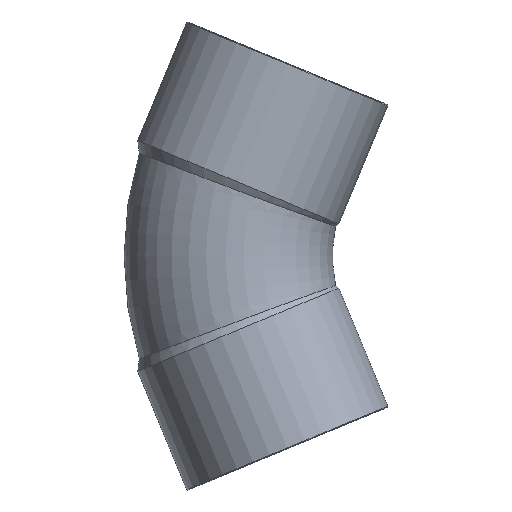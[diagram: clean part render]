
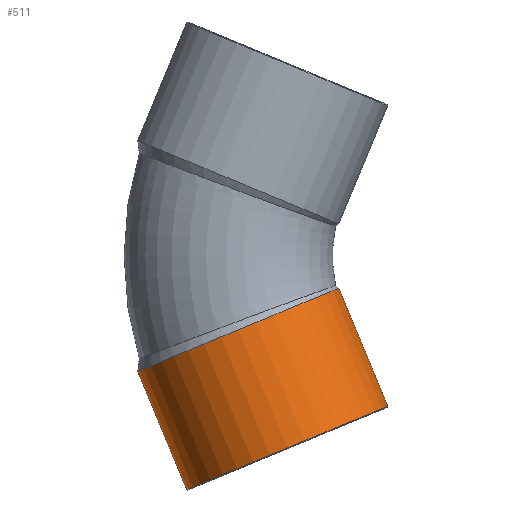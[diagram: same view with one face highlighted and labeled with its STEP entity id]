
A CAD part, front view. The second image highlights one B-rep face of the part: STEP entity #511.
In plain terms, the highlighted cylindrical face has radius 28.2 mm (diameter 56.4 mm), a partial arc.
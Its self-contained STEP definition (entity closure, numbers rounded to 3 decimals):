
#201=CARTESIAN_POINT('',(-83.844,0.,-29.896));
#202=VERTEX_POINT('',#201);
#209=CARTESIAN_POINT('',(-31.737,0.,-8.313));
#210=VERTEX_POINT('',#209);
#211=CARTESIAN_POINT('',(-57.791,0.,-19.104));
#212=DIRECTION('',(-0.383,0.,0.924));
#213=DIRECTION('',(0.924,0.0,0.383));
#214=AXIS2_PLACEMENT_3D('',#211,#212,#213);
#215=CIRCLE('',#214,28.2);
#216=EDGE_CURVE('',#202,#210,#215,.T.);
#480=CARTESIAN_POINT('',(-57.668,0.,-19.401));
#481=DIRECTION('',(0.383,0.,-0.924));
#482=DIRECTION('',(0.924,0.0,0.383));
#483=AXIS2_PLACEMENT_3D('',#480,#481,#482);
#484=CYLINDRICAL_SURFACE('',#483,28.2);
#485=CARTESIAN_POINT('',(-19.062,0.,-38.913));
#486=VERTEX_POINT('',#485);
#487=CARTESIAN_POINT('',(-31.737,0.,-8.313));
#488=DIRECTION('',(0.383,0.,-0.924));
#489=VECTOR('',#488,33.122);
#490=LINE('',#487,#489);
#491=EDGE_CURVE('',#210,#486,#490,.T.);
#492=ORIENTED_EDGE('',*,*,#491,.F.);
#493=ORIENTED_EDGE('',*,*,#216,.F.);
#494=CARTESIAN_POINT('',(-71.169,0.,-60.496));
#495=VERTEX_POINT('',#494);
#496=CARTESIAN_POINT('',(-71.169,0.,-60.496));
#497=DIRECTION('',(-0.383,0.,0.924));
#498=VECTOR('',#497,33.122);
#499=LINE('',#496,#498);
#500=EDGE_CURVE('',#495,#202,#499,.T.);
#501=ORIENTED_EDGE('',*,*,#500,.F.);
#502=CARTESIAN_POINT('',(-45.116,0.,-49.705));
#503=DIRECTION('',(0.383,0.,-0.924));
#504=DIRECTION('',(0.924,0.0,0.383));
#505=AXIS2_PLACEMENT_3D('',#502,#503,#504);
#506=CIRCLE('',#505,28.2);
#507=EDGE_CURVE('',#486,#495,#506,.T.);
#508=ORIENTED_EDGE('',*,*,#507,.F.);
#509=EDGE_LOOP('',(#492,#493,#501,#508));
#510=FACE_OUTER_BOUND('',#509,.T.);
#511=ADVANCED_FACE('',(#510),#484,.T.);
